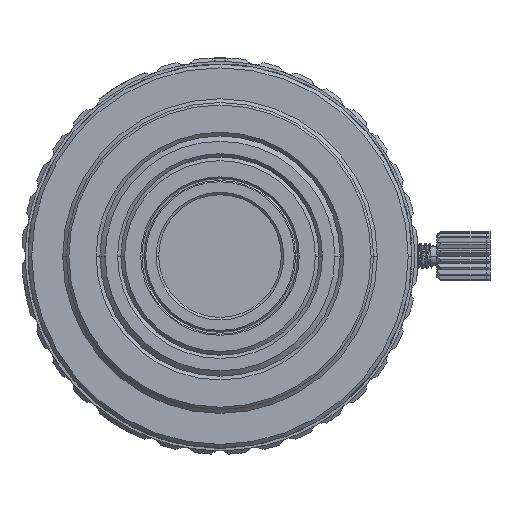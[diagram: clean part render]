
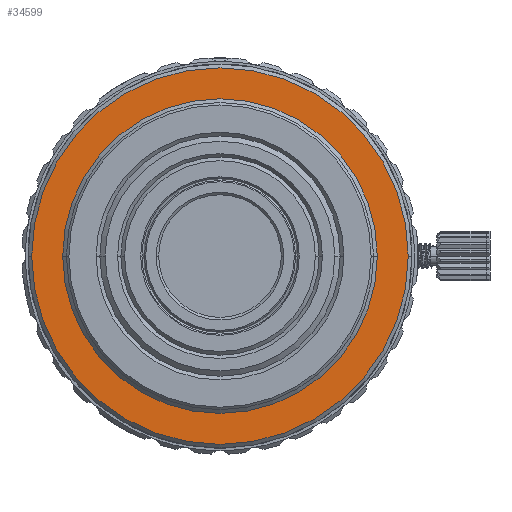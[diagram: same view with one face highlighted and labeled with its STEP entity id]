
A CAD part, front view. The second image highlights one B-rep face of the part: STEP entity #34599.
In plain terms, the highlighted planar face has unit normal (0, -1, 0).
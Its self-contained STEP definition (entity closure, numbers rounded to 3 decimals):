
#33716=CARTESIAN_POINT('',(0.,5.,0.));
#33717=DIRECTION('',(0.,-1.,0.));
#33718=DIRECTION('',(-1.,0.,0.));
#33719=AXIS2_PLACEMENT_3D('',#33716,#33717,#33718);
#33721=CARTESIAN_POINT('',(0.,5.,0.));
#33722=DIRECTION('',(0.,1.,0.));
#33723=DIRECTION('',(-1.,0.,0.));
#33724=AXIS2_PLACEMENT_3D('',#33721,#33722,#33723);
#33730=CARTESIAN_POINT('',(0.,5.,0.));
#33731=DIRECTION('',(0.,1.,0.));
#33732=DIRECTION('',(-1.,0.,0.));
#33733=AXIS2_PLACEMENT_3D('',#33730,#33731,#33732);
#33739=CARTESIAN_POINT('',(0.,5.,0.));
#33740=DIRECTION('',(0.,-1.,0.));
#33741=DIRECTION('',(-1.,0.,0.));
#33742=AXIS2_PLACEMENT_3D('',#33739,#33740,#33741);
#33873=CARTESIAN_POINT('',(-15.2,5.,0.));
#33875=VERTEX_POINT('',#33873);
#33876=CARTESIAN_POINT('',(-12.2,5.,0.));
#33878=VERTEX_POINT('',#33876);
#33895=CARTESIAN_POINT('',(15.2,5.,0.));
#33897=VERTEX_POINT('',#33895);
#33898=CARTESIAN_POINT('',(12.2,5.,0.));
#33900=VERTEX_POINT('',#33898);
#34584=CARTESIAN_POINT('',(0.,5.,0.));
#34585=DIRECTION('',(0.,-1.,0.));
#34586=DIRECTION('',(-1.,0.,0.));
#34587=AXIS2_PLACEMENT_3D('',#34584,#34585,#34586);
#34588=PLANE('',#34587);
#34589=ORIENTED_EDGE('',*,*,#34563,.F.);
#34590=ORIENTED_EDGE('',*,*,#34579,.T.);
#34591=EDGE_LOOP('',(#34589,#34590));
#34592=FACE_OUTER_BOUND('',#34591,.F.);
#34594=ORIENTED_EDGE('',*,*,#34593,.F.);
#34596=ORIENTED_EDGE('',*,*,#34595,.T.);
#34597=EDGE_LOOP('',(#34594,#34596));
#34598=FACE_BOUND('',#34597,.F.);
#34599=ADVANCED_FACE('',(#34592,#34598),#34588,.T.);
#33720=CIRCLE('',#33719,15.2);
#33725=CIRCLE('',#33724,15.2);
#33734=CIRCLE('',#33733,12.2);
#33743=CIRCLE('',#33742,12.2);
#34563=EDGE_CURVE('',#33875,#33897,#33720,.T.);
#34579=EDGE_CURVE('',#33875,#33897,#33725,.T.);
#34593=EDGE_CURVE('',#33878,#33900,#33734,.T.);
#34595=EDGE_CURVE('',#33878,#33900,#33743,.T.);
